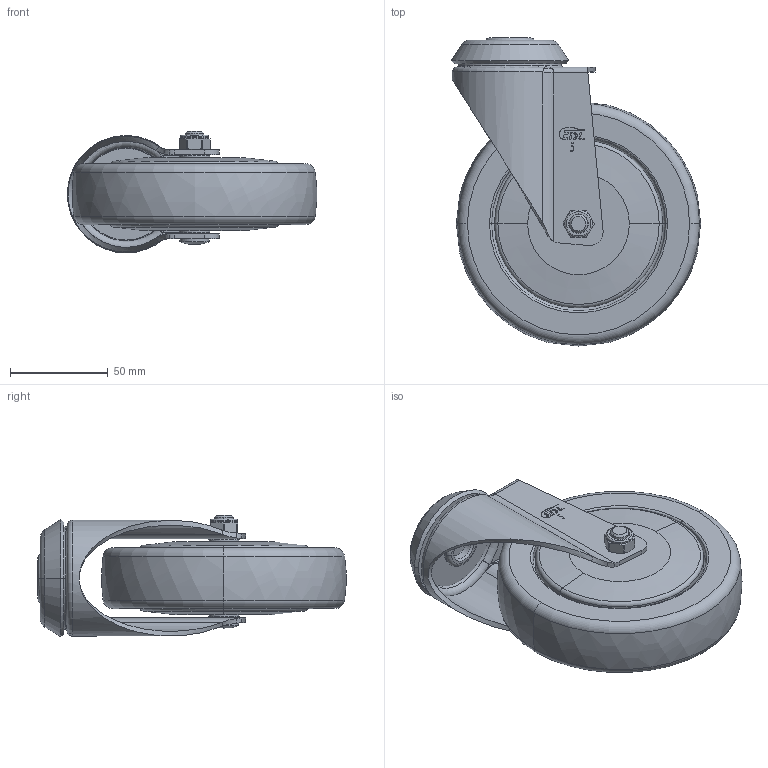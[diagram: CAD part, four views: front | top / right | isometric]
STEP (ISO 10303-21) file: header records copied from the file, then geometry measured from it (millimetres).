
FILE_DESCRIPTION((''),'2;1');
FILE_NAME('57275-575-77_ASM','2021-01-05T',('lenovo'),(''),'PRO/ENGINEER BY PARAMETRIC TECHNOLOGY CORPORATION, 2010280','PRO/ENGINEER BY PARAMETRIC TECHNOLOGY CORPORATION, 2010280','');
FILE_SCHEMA(('CONFIG_CONTROL_DESIGN'));
Length unit declared in the file: millimetre
Products named in the file (7): 5710-058; 5725-311; 5720-211; 575-77; 5710-020; 5710-031; 57275-575-77_ASM
Assembly tree (6 placements, depth 2):
  57275-575-77_ASM
    5710-058
    5725-311
    5720-211
    575-77
    5710-020
    5710-031
Bounding box: 127.43 x 157.43 x 62.25 mm (x, y, z)
Volume: 457460 mm3; surface area: 81358.3 mm2
Topology: 6 solids, 6 shells, 275 faces, 660 edges, 404 vertices
Faces by surface type: plane 107, cylinder 57, torus 37, cone 36, bspline 36, sphere 2
Entity records: 9420 total; most frequent: CARTESIAN_POINT 3000, DIRECTION 1322, ORIENTED_EDGE 1304, EDGE_CURVE 652, AXIS2_PLACEMENT_3D 504, VERTEX_POINT 402, VECTOR 314, LINE 314
